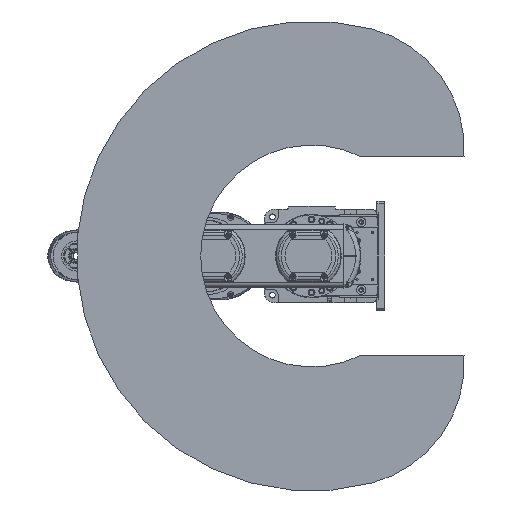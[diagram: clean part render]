
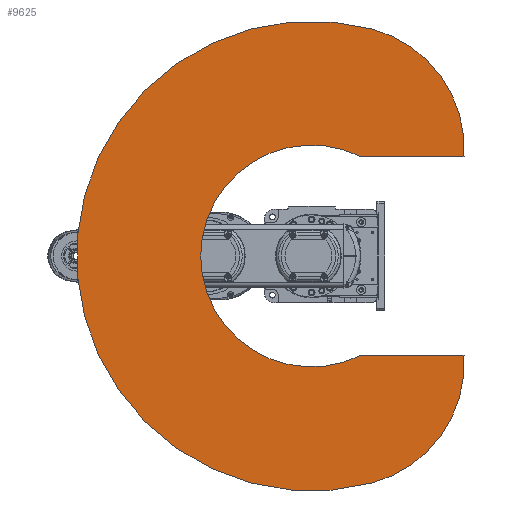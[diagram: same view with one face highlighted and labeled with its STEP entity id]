
A CAD part, front view. The second image highlights one B-rep face of the part: STEP entity #9625.
In plain terms, the highlighted planar face has unit normal (0, -1, 0).
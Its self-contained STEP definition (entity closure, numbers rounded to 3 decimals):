
#9625 = ADVANCED_FACE( '', ( #20537 ), #20538, .F. );
#20537 = FACE_OUTER_BOUND( '', #32268, .T. );
#20538 = PLANE( '', #32269 );
#32268 = EDGE_LOOP( '', ( #57960, #57961, #57962, #57963, #57964, #57965 ) );
#32269 = AXIS2_PLACEMENT_3D( '', #57966, #57967, #57968 );
#57960 = ORIENTED_EDGE( '', *, *, #66210, .T. );
#57961 = ORIENTED_EDGE( '', *, *, #63862, .F. );
#57962 = ORIENTED_EDGE( '', *, *, #67476, .F. );
#57963 = ORIENTED_EDGE( '', *, *, #61495, .F. );
#57964 = ORIENTED_EDGE( '', *, *, #68326, .T. );
#57965 = ORIENTED_EDGE( '', *, *, #66526, .F. );
#57966 = CARTESIAN_POINT( '', ( 102.614, 0., 27.495 ) );
#57967 = DIRECTION( '', ( 0., 1., 0. ) );
#57968 = DIRECTION( '', ( 0., 0., 1. ) );
#61495 = EDGE_CURVE( '', #73475, #73477, #73478, .T. );
#63862 = EDGE_CURVE( '', #77210, #77208, #77212, .T. );
#66210 = EDGE_CURVE( '', #80494, #77208, #80495, .T. );
#66526 = EDGE_CURVE( '', #80494, #80900, #80901, .F. );
#67476 = EDGE_CURVE( '', #73477, #77210, #82054, .T. );
#68326 = EDGE_CURVE( '', #73475, #80900, #82973, .T. );
#73475 = VERTEX_POINT( '', #92272 );
#73477 = VERTEX_POINT( '', #92275 );
#73478 = CIRCLE( '', #92276, 237.533 );
#77208 = VERTEX_POINT( '', #98332 );
#77210 = VERTEX_POINT( '', #98335 );
#77212 = CIRCLE( '', #98338, 237.533 );
#80494 = VERTEX_POINT( '', #103655 );
#80495 = LINE( '', #103656, #103657 );
#80900 = VERTEX_POINT( '', #104351 );
#80901 = CIRCLE( '', #104352, 212.47 );
#82054 = CIRCLE( '', #106131, 450. );
#82973 = LINE( '', #107456, #107457 );
#92272 = CARTESIAN_POINT( '', ( 190., 0., 292.035 ) );
#92275 = CARTESIAN_POINT( '', ( 434.667, 0., 116.469 ) );
#92276 = AXIS2_PLACEMENT_3D( '', #111329, #111330, #111331 );
#98332 = CARTESIAN_POINT( '', ( -190., 0., 292.035 ) );
#98335 = CARTESIAN_POINT( '', ( -434.667, 0., 116.469 ) );
#98338 = AXIS2_PLACEMENT_3D( '', #114276, #114277, #114278 );
#103655 = CARTESIAN_POINT( '', ( -190., 0., 95.097 ) );
#103656 = CARTESIAN_POINT( '', ( -190., 0., 0. ) );
#103657 = VECTOR( '', #117000, 1000. );
#104351 = CARTESIAN_POINT( '', ( 190., 0., 95.097 ) );
#104352 = AXIS2_PLACEMENT_3D( '', #117333, #117334, #117335 );
#106131 = AXIS2_PLACEMENT_3D( '', #118261, #118262, #118263 );
#107456 = CARTESIAN_POINT( '', ( 190., 0., 400. ) );
#107457 = VECTOR( '', #118706, 1000. );
#111329 = CARTESIAN_POINT( '', ( 205.228, 0., 54.991 ) );
#111330 = DIRECTION( '', ( 0., 1., 0. ) );
#111331 = DIRECTION( '', ( 1., 0., 0. ) );
#114276 = CARTESIAN_POINT( '', ( -205.228, 0., 54.991 ) );
#114277 = DIRECTION( '', ( 0., 1., 0. ) );
#114278 = DIRECTION( '', ( 1., 0., 0. ) );
#117000 = DIRECTION( '', ( 0., 0., 1. ) );
#117333 = CARTESIAN_POINT( '', ( 0., 0., 0. ) );
#117334 = DIRECTION( '', ( 0., 1., 0. ) );
#117335 = DIRECTION( '', ( 0., 0., 1. ) );
#118261 = CARTESIAN_POINT( '', ( 0., 0., 0. ) );
#118262 = DIRECTION( '', ( 0., 1., 0. ) );
#118263 = DIRECTION( '', ( 1., 0., 0. ) );
#118706 = DIRECTION( '', ( 0., 0., -1. ) );
